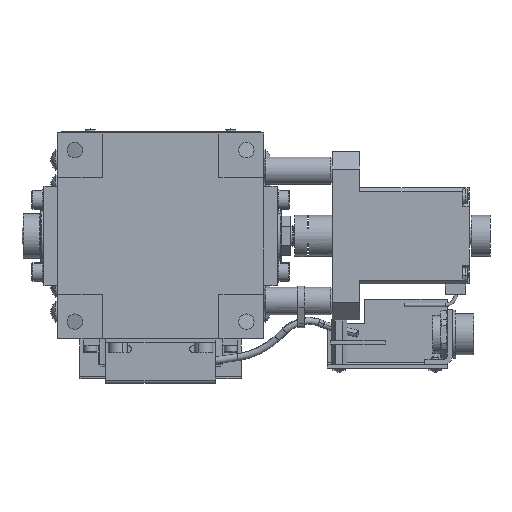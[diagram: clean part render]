
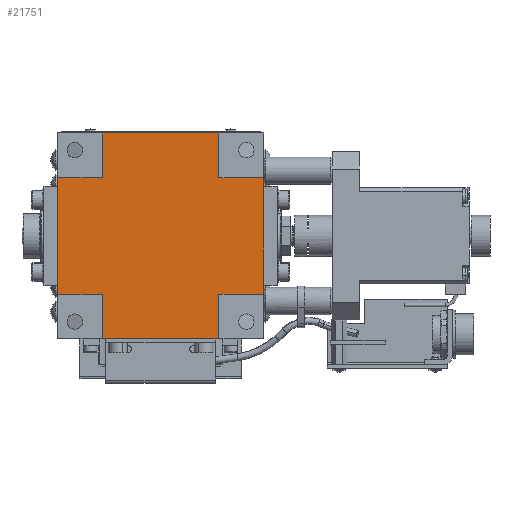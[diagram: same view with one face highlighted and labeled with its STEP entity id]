
A CAD part, front view. The second image highlights one B-rep face of the part: STEP entity #21751.
In plain terms, the highlighted planar face has unit normal (0, -1, 0).
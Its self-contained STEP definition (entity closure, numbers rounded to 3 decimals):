
#16 = VERTEX_POINT ( 'NONE', #30743 ) ;
#1015 = DIRECTION ( 'NONE',  ( -1., 0., 0. ) ) ;
#1357 = EDGE_CURVE ( 'NONE', #8081, #13446, #14174, .T. ) ;
#1919 = VECTOR ( 'NONE', #20302, 1000. ) ;
#2220 = VECTOR ( 'NONE', #19292, 1000. ) ;
#2751 = DIRECTION ( 'NONE',  ( 1., 0., 0. ) ) ;
#2799 = CARTESIAN_POINT ( 'NONE',  ( 30., 0.3, -17. ) ) ;
#2836 = DIRECTION ( 'NONE',  ( 0., 0., 1. ) ) ;
#3181 = VECTOR ( 'NONE', #31813, 1000. ) ;
#3347 = CARTESIAN_POINT ( 'NONE',  ( -17., 0.3, 30. ) ) ;
#3523 = VERTEX_POINT ( 'NONE', #26577 ) ;
#3651 = VERTEX_POINT ( 'NONE', #24955 ) ;
#4746 = CARTESIAN_POINT ( 'NONE',  ( -17., 0.3, -30. ) ) ;
#4904 = VECTOR ( 'NONE', #1015, 1000. ) ;
#5359 = VERTEX_POINT ( 'NONE', #2799 ) ;
#5867 = VECTOR ( 'NONE', #23852, 1000. ) ;
#5869 = EDGE_CURVE ( 'NONE', #11386, #16, #20078, .T. ) ;
#5982 = AXIS2_PLACEMENT_3D ( 'NONE', #6774, #21108, #23587 ) ;
#6260 = VECTOR ( 'NONE', #17827, 1000. ) ;
#6517 = VERTEX_POINT ( 'NONE', #18111 ) ;
#6618 = CARTESIAN_POINT ( 'NONE',  ( -30., 0.3, -17. ) ) ;
#6774 = CARTESIAN_POINT ( 'NONE',  ( 0., 0.3, 0. ) ) ;
#6913 = CARTESIAN_POINT ( 'NONE',  ( 17., 0.3, -30. ) ) ;
#7534 = VECTOR ( 'NONE', #29851, 1000. ) ;
#7723 = CARTESIAN_POINT ( 'NONE',  ( 30., 0.3, 17. ) ) ;
#7807 = CARTESIAN_POINT ( 'NONE',  ( -30., 0.3, 17. ) ) ;
#8081 = VERTEX_POINT ( 'NONE', #20068 ) ;
#8259 = CARTESIAN_POINT ( 'NONE',  ( -30., 0.3, 17. ) ) ;
#8375 = ORIENTED_EDGE ( 'NONE', *, *, #12582, .T. ) ;
#8557 = EDGE_CURVE ( 'NONE', #24585, #3651, #13744, .T. ) ;
#8971 = LINE ( 'NONE', #24793, #30098 ) ;
#9445 = ORIENTED_EDGE ( 'NONE', *, *, #21354, .T. ) ;
#9705 = EDGE_LOOP ( 'NONE', ( #9445, #24057, #31491, #17437, #30752, #18080, #24052, #13411, #28650, #28359, #8375, #20400 ) ) ;
#10874 = VECTOR ( 'NONE', #21374, 1000. ) ;
#11088 = VERTEX_POINT ( 'NONE', #4746 ) ;
#11386 = VERTEX_POINT ( 'NONE', #3347 ) ;
#11477 = LINE ( 'NONE', #18087, #4904 ) ;
#12582 = EDGE_CURVE ( 'NONE', #11088, #24585, #16638, .T. ) ;
#13061 = LINE ( 'NONE', #7807, #1919 ) ;
#13199 = EDGE_CURVE ( 'NONE', #26408, #11088, #16254, .T. ) ;
#13374 = VECTOR ( 'NONE', #2836, 1000. ) ;
#13411 = ORIENTED_EDGE ( 'NONE', *, *, #28868, .T. ) ;
#13430 = EDGE_CURVE ( 'NONE', #3523, #26408, #31643, .T. ) ;
#13446 = VERTEX_POINT ( 'NONE', #16492 ) ;
#13462 = EDGE_CURVE ( 'NONE', #5359, #15562, #20510, .T. ) ;
#13705 = LINE ( 'NONE', #17500, #7534 ) ;
#13744 = LINE ( 'NONE', #6913, #2220 ) ;
#13787 = PLANE ( 'NONE',  #5982 ) ;
#14174 = LINE ( 'NONE', #29033, #13374 ) ;
#15562 = VERTEX_POINT ( 'NONE', #7723 ) ;
#15606 = CARTESIAN_POINT ( 'NONE',  ( -17., 0.3, 17. ) ) ;
#16099 = EDGE_CURVE ( 'NONE', #16, #6517, #13061, .T. ) ;
#16254 = LINE ( 'NONE', #17165, #6260 ) ;
#16492 = CARTESIAN_POINT ( 'NONE',  ( 17., 0.3, 30. ) ) ;
#16638 = LINE ( 'NONE', #24654, #3181 ) ;
#16895 = CARTESIAN_POINT ( 'NONE',  ( -17., 0.3, -17. ) ) ;
#17165 = CARTESIAN_POINT ( 'NONE',  ( -17., 0.3, -30. ) ) ;
#17437 = ORIENTED_EDGE ( 'NONE', *, *, #1357, .T. ) ;
#17500 = CARTESIAN_POINT ( 'NONE',  ( -17., 0.3, 30. ) ) ;
#17827 = DIRECTION ( 'NONE',  ( 0., 0., -1. ) ) ;
#17988 = DIRECTION ( 'NONE',  ( 0., 0., -1. ) ) ;
#18080 = ORIENTED_EDGE ( 'NONE', *, *, #5869, .T. ) ;
#18087 = CARTESIAN_POINT ( 'NONE',  ( 17., 0.3, 17. ) ) ;
#18111 = CARTESIAN_POINT ( 'NONE',  ( -30., 0.3, 17. ) ) ;
#18155 = EDGE_CURVE ( 'NONE', #13446, #11386, #13705, .T. ) ;
#19292 = DIRECTION ( 'NONE',  ( 0., 0., 1. ) ) ;
#20068 = CARTESIAN_POINT ( 'NONE',  ( 17., 0.3, 17. ) ) ;
#20078 = LINE ( 'NONE', #15606, #25842 ) ;
#20302 = DIRECTION ( 'NONE',  ( -1., 0., 0. ) ) ;
#20400 = ORIENTED_EDGE ( 'NONE', *, *, #8557, .T. ) ;
#20510 = LINE ( 'NONE', #21165, #10874 ) ;
#21108 = DIRECTION ( 'NONE',  ( 0., 1., 0. ) ) ;
#21165 = CARTESIAN_POINT ( 'NONE',  ( 30., 0.3, 17. ) ) ;
#21354 = EDGE_CURVE ( 'NONE', #3651, #5359, #8971, .T. ) ;
#21374 = DIRECTION ( 'NONE',  ( 0., 0., 1. ) ) ;
#21751 = ADVANCED_FACE ( 'NONE', ( #26273 ), #13787, .F. ) ;
#21825 = CARTESIAN_POINT ( 'NONE',  ( 17., 0.3, -30. ) ) ;
#22603 = VECTOR ( 'NONE', #25477, 1000. ) ;
#23587 = DIRECTION ( 'NONE',  ( -1., 0., 0. ) ) ;
#23852 = DIRECTION ( 'NONE',  ( 1., 0., 0. ) ) ;
#24052 = ORIENTED_EDGE ( 'NONE', *, *, #16099, .T. ) ;
#24057 = ORIENTED_EDGE ( 'NONE', *, *, #13462, .T. ) ;
#24585 = VERTEX_POINT ( 'NONE', #21825 ) ;
#24654 = CARTESIAN_POINT ( 'NONE',  ( -17., 0.3, -30. ) ) ;
#24793 = CARTESIAN_POINT ( 'NONE',  ( 17., 0.3, -17. ) ) ;
#24955 = CARTESIAN_POINT ( 'NONE',  ( 17., 0.3, -17. ) ) ;
#25477 = DIRECTION ( 'NONE',  ( 0., 0., -1. ) ) ;
#25842 = VECTOR ( 'NONE', #17988, 1000. ) ;
#26273 = FACE_OUTER_BOUND ( 'NONE', #9705, .T. ) ;
#26408 = VERTEX_POINT ( 'NONE', #16895 ) ;
#26577 = CARTESIAN_POINT ( 'NONE',  ( -30., 0.3, -17. ) ) ;
#28269 = EDGE_CURVE ( 'NONE', #15562, #8081, #11477, .T. ) ;
#28359 = ORIENTED_EDGE ( 'NONE', *, *, #13199, .T. ) ;
#28650 = ORIENTED_EDGE ( 'NONE', *, *, #13430, .T. ) ;
#28868 = EDGE_CURVE ( 'NONE', #6517, #3523, #29123, .T. ) ;
#29033 = CARTESIAN_POINT ( 'NONE',  ( 17., 0.3, 17. ) ) ;
#29123 = LINE ( 'NONE', #8259, #22603 ) ;
#29851 = DIRECTION ( 'NONE',  ( -1., 0., 0. ) ) ;
#30098 = VECTOR ( 'NONE', #2751, 1000. ) ;
#30743 = CARTESIAN_POINT ( 'NONE',  ( -17., 0.3, 17. ) ) ;
#30752 = ORIENTED_EDGE ( 'NONE', *, *, #18155, .T. ) ;
#31491 = ORIENTED_EDGE ( 'NONE', *, *, #28269, .T. ) ;
#31643 = LINE ( 'NONE', #6618, #5867 ) ;
#31813 = DIRECTION ( 'NONE',  ( 1., 0., 0. ) ) ;
